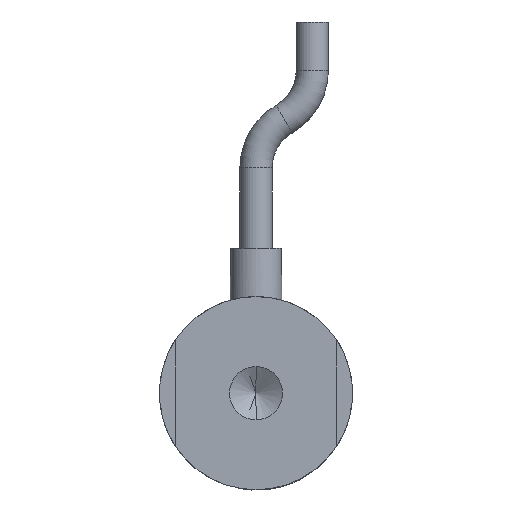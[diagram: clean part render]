
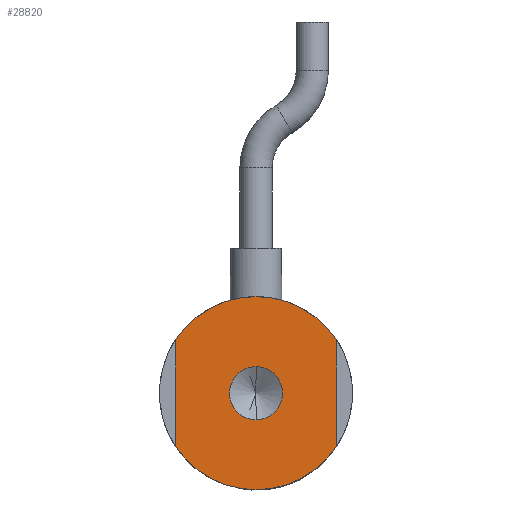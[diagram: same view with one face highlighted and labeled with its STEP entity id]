
A CAD part, front view. The second image highlights one B-rep face of the part: STEP entity #28820.
In plain terms, the highlighted planar face has unit normal (0, -1, 0).
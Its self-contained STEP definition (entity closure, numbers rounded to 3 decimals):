
#1572 = DIRECTION ( 'NONE',  ( 0., 0., 1. ) ) ;
#2643 = CIRCLE ( 'NONE', #2810, 6. ) ;
#2810 = AXIS2_PLACEMENT_3D ( 'NONE', #16903, #39898, #20177 ) ;
#3616 = AXIS2_PLACEMENT_3D ( 'NONE', #18197, #27891, #8370 ) ;
#3943 = FACE_BOUND ( 'NONE', #20837, .T. ) ;
#4188 = FACE_OUTER_BOUND ( 'NONE', #20338, .T. ) ;
#4489 = EDGE_CURVE ( 'NONE', #21993, #38621, #22497, .T. ) ;
#5032 = EDGE_CURVE ( 'NONE', #28677, #17467, #20930, .T. ) ;
#5077 = PLANE ( 'NONE',  #3616 ) ;
#5764 = LINE ( 'NONE', #21352, #6054 ) ;
#6054 = VECTOR ( 'NONE', #1572, 1000. ) ;
#8370 = DIRECTION ( 'NONE',  ( 0., 0., 1. ) ) ;
#13406 = CARTESIAN_POINT ( 'NONE',  ( 0., 0., 0. ) ) ;
#13641 = CARTESIAN_POINT ( 'NONE',  ( 5., 0., 3.317 ) ) ;
#13746 = CARTESIAN_POINT ( 'NONE',  ( 0., 0., -6. ) ) ;
#15010 = ORIENTED_EDGE ( 'NONE', *, *, #23176, .F. ) ;
#16132 = CARTESIAN_POINT ( 'NONE',  ( 0., 0., 0. ) ) ;
#16158 = EDGE_CURVE ( 'NONE', #17467, #31552, #34438, .T. ) ;
#16552 = EDGE_CURVE ( 'NONE', #31552, #30057, #33009, .T. ) ;
#16700 = CIRCLE ( 'NONE', #19376, 1.65 ) ;
#16720 = DIRECTION ( 'NONE',  ( 0., 0., -1. ) ) ;
#16882 = ORIENTED_EDGE ( 'NONE', *, *, #29101, .F. ) ;
#16903 = CARTESIAN_POINT ( 'NONE',  ( 0., 0., 0. ) ) ;
#17467 = VERTEX_POINT ( 'NONE', #22372 ) ;
#18062 = DIRECTION ( 'NONE',  ( 0., 0., 1. ) ) ;
#18197 = CARTESIAN_POINT ( 'NONE',  ( 0., 0., 0. ) ) ;
#18268 = ORIENTED_EDGE ( 'NONE', *, *, #4489, .F. ) ;
#18358 = DIRECTION ( 'NONE',  ( 0., 1., 0. ) ) ;
#18508 = CARTESIAN_POINT ( 'NONE',  ( 0., 0., 0. ) ) ;
#19303 = DIRECTION ( 'NONE',  ( 0., 0., -1. ) ) ;
#19358 = DIRECTION ( 'NONE',  ( 0., -1., 0. ) ) ;
#19376 = AXIS2_PLACEMENT_3D ( 'NONE', #13406, #36292, #16720 ) ;
#19428 = DIRECTION ( 'NONE',  ( 0., 0., 1. ) ) ;
#19502 = CARTESIAN_POINT ( 'NONE',  ( 0., 0., 0. ) ) ;
#20177 = DIRECTION ( 'NONE',  ( 0., 0., 1. ) ) ;
#20338 = EDGE_LOOP ( 'NONE', ( #41912, #21280, #33641, #34708, #35877, #16882 ) ) ;
#20837 = EDGE_LOOP ( 'NONE', ( #18268, #15010 ) ) ;
#20930 = LINE ( 'NONE', #34893, #21242 ) ;
#21242 = VECTOR ( 'NONE', #35177, 1000. ) ;
#21280 = ORIENTED_EDGE ( 'NONE', *, *, #16552, .F. ) ;
#21352 = CARTESIAN_POINT ( 'NONE',  ( -5., 0., 0. ) ) ;
#21993 = VERTEX_POINT ( 'NONE', #22748 ) ;
#22372 = CARTESIAN_POINT ( 'NONE',  ( 5., 0., -3.317 ) ) ;
#22497 = CIRCLE ( 'NONE', #33909, 1.65 ) ;
#22748 = CARTESIAN_POINT ( 'NONE',  ( 0., 0., -1.65 ) ) ;
#23011 = CARTESIAN_POINT ( 'NONE',  ( 0., 0., 1.65 ) ) ;
#23176 = EDGE_CURVE ( 'NONE', #38621, #21993, #16700, .T. ) ;
#27891 = DIRECTION ( 'NONE',  ( 0., 1., 0. ) ) ;
#28207 = EDGE_CURVE ( 'NONE', #30057, #35982, #5764, .T. ) ;
#28287 = CARTESIAN_POINT ( 'NONE',  ( -5., 0., -3.317 ) ) ;
#28677 = VERTEX_POINT ( 'NONE', #13641 ) ;
#28820 = ADVANCED_FACE ( 'NONE', ( #3943, #4188 ), #5077, .F. ) ;
#29101 = EDGE_CURVE ( 'NONE', #35982, #37265, #2643, .T. ) ;
#29620 = CIRCLE ( 'NONE', #39926, 6. ) ;
#30057 = VERTEX_POINT ( 'NONE', #28287 ) ;
#31552 = VERTEX_POINT ( 'NONE', #13746 ) ;
#33009 = CIRCLE ( 'NONE', #36675, 6. ) ;
#33563 = CARTESIAN_POINT ( 'NONE',  ( -5., 0., 3.317 ) ) ;
#33641 = ORIENTED_EDGE ( 'NONE', *, *, #16158, .F. ) ;
#33909 = AXIS2_PLACEMENT_3D ( 'NONE', #19502, #19358, #19303 ) ;
#34438 = CIRCLE ( 'NONE', #37815, 6. ) ;
#34708 = ORIENTED_EDGE ( 'NONE', *, *, #5032, .F. ) ;
#34893 = CARTESIAN_POINT ( 'NONE',  ( 5., 0., 0. ) ) ;
#35177 = DIRECTION ( 'NONE',  ( 0., 0., -1. ) ) ;
#35326 = DIRECTION ( 'NONE',  ( 0., 0., 1. ) ) ;
#35425 = DIRECTION ( 'NONE',  ( 0., 1., 0. ) ) ;
#35570 = CARTESIAN_POINT ( 'NONE',  ( 0., 0., 0. ) ) ;
#35877 = ORIENTED_EDGE ( 'NONE', *, *, #37938, .F. ) ;
#35982 = VERTEX_POINT ( 'NONE', #33563 ) ;
#36292 = DIRECTION ( 'NONE',  ( 0., -1., 0. ) ) ;
#36675 = AXIS2_PLACEMENT_3D ( 'NONE', #18508, #18358, #18062 ) ;
#37265 = VERTEX_POINT ( 'NONE', #37713 ) ;
#37713 = CARTESIAN_POINT ( 'NONE',  ( 0., 0., 6. ) ) ;
#37815 = AXIS2_PLACEMENT_3D ( 'NONE', #35570, #35425, #35326 ) ;
#37938 = EDGE_CURVE ( 'NONE', #37265, #28677, #29620, .T. ) ;
#38621 = VERTEX_POINT ( 'NONE', #23011 ) ;
#39093 = DIRECTION ( 'NONE',  ( 0., 1., 0. ) ) ;
#39898 = DIRECTION ( 'NONE',  ( 0., 1., 0. ) ) ;
#39926 = AXIS2_PLACEMENT_3D ( 'NONE', #16132, #39093, #19428 ) ;
#41912 = ORIENTED_EDGE ( 'NONE', *, *, #28207, .F. ) ;
